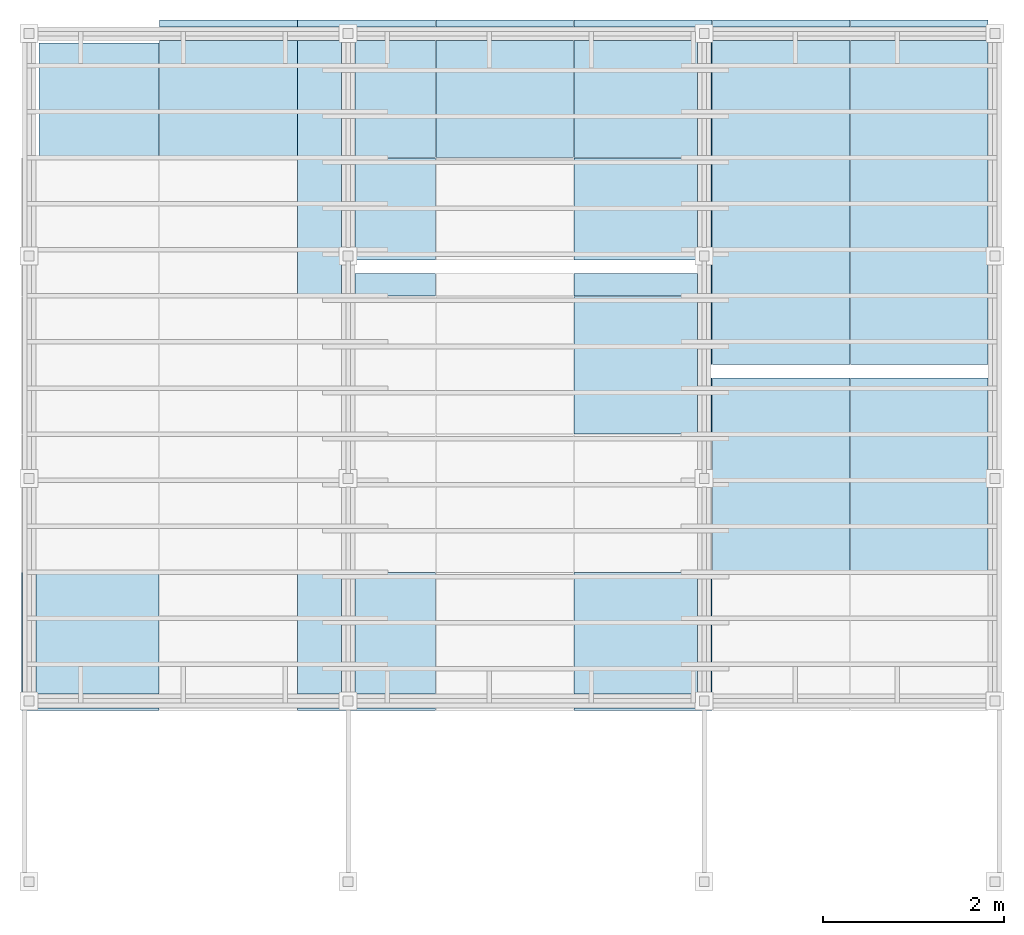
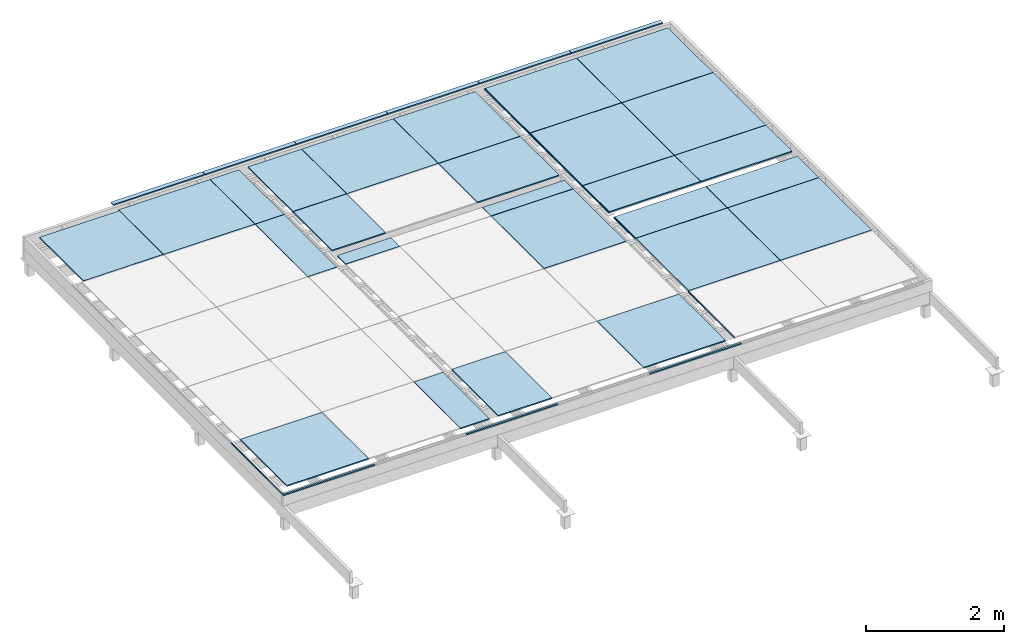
# One storey, part 5 of 5: 19 slabs.
"""IFC4 building model written with IfcOpenShell, lengths in millimetres."""

from ifc_helpers import new_model, si_unit, derived_unit, frame, origin_with_axes, place, context, subcontext, project, spatial, polygons, source, transform, mapped, material, constituent, constituent_set, element, save


model = new_model("IFC4")

# Units and contexts
model_context = context("Model", 3, precision=1e-06, world=origin_with_axes())
body_context = subcontext(model_context, "Body", "Model", "MODEL_VIEW")
ifc_project = project(units=[si_unit("LENGTHUNIT", "METRE", prefix="MILLI"), si_unit("AREAUNIT", "SQUARE_METRE"), si_unit("VOLUMEUNIT", "CUBIC_METRE"), si_unit("MASSUNIT", "GRAM", prefix="KILO"), si_unit("ELECTRICVOLTAGEUNIT", "VOLT", prefix="KILO"), si_unit("THERMODYNAMICTEMPERATUREUNIT", "DEGREE_CELSIUS"), si_unit("PRESSUREUNIT", "PASCAL", prefix="MEGA"), si_unit("PLANEANGLEUNIT", "RADIAN"), derived_unit("THERMALCONDUCTANCEUNIT", [(si_unit("POWERUNIT", "WATT"), 1), (si_unit("LENGTHUNIT", "METRE"), -1), (si_unit("THERMODYNAMICTEMPERATUREUNIT", "KELVIN"), -1)]), derived_unit("MASSDENSITYUNIT", [(si_unit("MASSUNIT", "GRAM", prefix="KILO"), 1), (si_unit("VOLUMEUNIT", "CUBIC_METRE"), -1)])], contexts=[model_context])

# Site, building, storey
site_placement = place(None, origin_with_axes())
site = spatial("IfcSite", under=ifc_project, at=site_placement, CompositionType="ELEMENT")
building_placement = place(site_placement, origin_with_axes())
building = spatial("IfcBuilding", under=site, at=building_placement, CompositionType="ELEMENT")
storey_placement = place(building_placement, origin_with_axes())
storey = spatial("IfcBuildingStorey", under=building, at=storey_placement, Name="Ниже 0.00", CompositionType="ELEMENT", Elevation=0.0)

# Slabs
ifc_material = material(Name="фанера)")
ifc_constituent = constituent(ifc_material, Name="Слой 1 - фанера): 21,00 мм")
ifc_constituent_set = constituent_set(constituents=[ifc_constituent], Name="Фанера")
shared_shape_1 = source(origin_with_axes(), body_context, "Body", "Tessellation", [
    polygons([(9170.000000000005, 1499.9999999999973, 0.0), (9170.000000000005, 3024.9999999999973, 0.0), (10695.000000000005, 3024.9999999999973, 0.0), (10695.000000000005, 1499.9999999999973, 0.0), (9170.000000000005, 1499.9999999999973, 21.0), (9170.000000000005, 3024.9999999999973, 21.0), (10695.000000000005, 3024.9999999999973, 21.0), (10695.000000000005, 1499.9999999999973, 21.0)], [[[1, 2, 3, 4]], [[2, 1, 5, 6]], [[3, 2, 6, 7]], [[4, 3, 7, 8]], [[1, 4, 8, 5]], [[5, 8, 7, 6]]], closed=True),
])
slab_1_placement = place(storey_placement, frame((9170.000000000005, 1499.9999999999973, 0.0), z_axis=(0.0, 0.0, 1.0), x_axis=(1.0, 0.0, 0.0)))
element("IfcSlab", 1, at=slab_1_placement, inside=storey, material=ifc_constituent_set, Name="Перекрытие: 21,00 мм", PredefinedType="FLOOR", context=body_context, shape_type="MappedRepresentation", body=[
    mapped(shared_shape_1, transform((-9170.000000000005, -1499.9999999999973, 0.0), x_axis=(1.0, 0.0, 0.0), y_axis=(0.0, 1.0, 0.0), z_axis=(0.0, 0.0, 1.0), scale=1.0)),
])
shared_shape_2 = source(origin_with_axes(), body_context, "Body", "Tessellation", [
    polygons([(10695.000000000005, 3800.0000000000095, 0.0), (9170.000000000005, 3800.000000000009, 0.0), (9170.000000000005, 4554.999999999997, 0.0), (10695.000000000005, 4554.999999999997, 0.0), (10695.000000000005, 3800.0000000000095, 21.0), (9170.000000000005, 3800.000000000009, 21.0), (9170.000000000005, 4554.999999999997, 21.0), (10695.000000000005, 4554.999999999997, 21.0)], [[[1, 2, 3, 4]], [[1, 5, 6, 2]], [[2, 6, 7, 3]], [[4, 3, 7, 8]], [[5, 1, 4, 8]], [[6, 5, 8, 7]]], closed=True),
    polygons([(9170.000000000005, 3650.000000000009, 0.0), (10695.000000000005, 3650.0000000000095, 0.0), (10695.000000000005, 3029.9999999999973, 0.0), (9170.000000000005, 3029.9999999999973, 0.0), (10695.000000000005, 3650.0000000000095, 21.0), (9170.000000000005, 3650.000000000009, 21.0), (10695.000000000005, 3029.9999999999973, 21.0), (9170.000000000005, 3029.9999999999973, 21.0)], [[[1, 2, 3, 4]], [[5, 2, 1, 6]], [[2, 5, 7, 3]], [[4, 3, 7, 8]], [[6, 1, 4, 8]], [[5, 6, 8, 7]]], closed=True),
])
slab_2_placement = place(storey_placement, frame((9170.000000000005, 3029.9999999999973, 0.0), z_axis=(0.0, 0.0, 1.0), x_axis=(1.0, 0.0, 0.0)))
element("IfcSlab", 2, at=slab_2_placement, inside=storey, material=ifc_constituent_set, Name="Перекрытие: 21,00 мм", PredefinedType="FLOOR", context=body_context, shape_type="MappedRepresentation", body=[
    mapped(shared_shape_2, transform((-9170.000000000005, -3029.9999999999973, 0.0), x_axis=(1.0, 0.0, 0.0), y_axis=(0.0, 1.0, 0.0), z_axis=(0.0, 0.0, 1.0), scale=1.0)),
])
shared_shape_3 = source(origin_with_axes(), body_context, "Body", "Tessellation", [
    polygons([(9170.000000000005, 4559.999999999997, 0.0), (9170.000000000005, 6084.999999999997, 0.0), (10695.000000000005, 6084.999999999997, 0.0), (10695.000000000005, 4559.999999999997, 0.0), (9170.000000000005, 4559.999999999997, 21.0), (9170.000000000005, 6084.999999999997, 21.0), (10695.000000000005, 6084.999999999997, 21.0), (10695.000000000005, 4559.999999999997, 21.0)], [[[1, 2, 3, 4]], [[2, 1, 5, 6]], [[3, 2, 6, 7]], [[4, 3, 7, 8]], [[1, 4, 8, 5]], [[5, 8, 7, 6]]], closed=True),
])
slab_3_placement = place(storey_placement, frame((9170.000000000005, 4559.999999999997, 0.0), z_axis=(0.0, 0.0, 1.0), x_axis=(1.0, 0.0, 0.0)))
element("IfcSlab", 3, at=slab_3_placement, inside=storey, material=ifc_constituent_set, Name="Перекрытие: 21,00 мм", PredefinedType="FLOOR", context=body_context, shape_type="MappedRepresentation", body=[
    mapped(shared_shape_3, transform((-9170.000000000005, -4559.999999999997, 0.0), x_axis=(1.0, 0.0, 0.0), y_axis=(0.0, 1.0, 0.0), z_axis=(0.0, 0.0, 1.0), scale=1.0)),
])
shared_shape_4 = source(origin_with_axes(), body_context, "Body", "Tessellation", [
    polygons([(9170.000000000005, 7389.999999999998, 0.0), (10695.000000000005, 7389.999999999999, 0.0), (10695.000000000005, 6089.999999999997, 0.0), (9170.000000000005, 6089.999999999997, 0.0), (10695.000000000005, 7389.999999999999, 21.0), (9170.000000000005, 7389.999999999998, 21.0), (10695.000000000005, 6089.999999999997, 21.0), (9170.000000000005, 6089.999999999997, 21.0)], [[[1, 2, 3, 4]], [[5, 2, 1, 6]], [[2, 5, 7, 3]], [[4, 3, 7, 8]], [[6, 1, 4, 8]], [[5, 6, 8, 7]]], closed=True),
    polygons([(10695.000000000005, 7539.999999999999, 0.0), (9170.000000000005, 7539.999999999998, 0.0), (9170.000000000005, 7614.999999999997, 0.0), (10695.000000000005, 7614.999999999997, 0.0), (10695.000000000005, 7539.999999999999, 21.0), (9170.000000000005, 7539.999999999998, 21.0), (9170.000000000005, 7614.999999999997, 21.0), (10695.000000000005, 7614.999999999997, 21.0)], [[[1, 2, 3, 4]], [[1, 5, 6, 2]], [[2, 6, 7, 3]], [[4, 3, 7, 8]], [[5, 1, 4, 8]], [[6, 5, 8, 7]]], closed=True),
])
slab_4_placement = place(storey_placement, frame((9170.000000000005, 6089.999999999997, 0.0), z_axis=(0.0, 0.0, 1.0), x_axis=(1.0, 0.0, 0.0)))
element("IfcSlab", 4, at=slab_4_placement, inside=storey, material=ifc_constituent_set, Name="Перекрытие: 21,00 мм", PredefinedType="FLOOR", context=body_context, shape_type="MappedRepresentation", body=[
    mapped(shared_shape_4, transform((-9170.000000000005, -6089.999999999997, 0.0), x_axis=(1.0, 0.0, 0.0), y_axis=(0.0, 1.0, 0.0), z_axis=(0.0, 0.0, 1.0), scale=1.0)),
])
shared_shape_5 = source(origin_with_axes(), body_context, "Body", "Tessellation", [
    polygons([(7640.0000000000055, 1499.9999999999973, 0.0), (7640.0000000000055, 3024.9999999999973, 0.0), (9165.000000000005, 3024.9999999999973, 0.0), (9165.000000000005, 1499.9999999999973, 0.0), (7640.0000000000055, 1499.9999999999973, 21.0), (7640.0000000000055, 3024.9999999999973, 21.0), (9165.000000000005, 3024.9999999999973, 21.0), (9165.000000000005, 1499.9999999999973, 21.0)], [[[1, 2, 3, 4]], [[2, 1, 5, 6]], [[3, 2, 6, 7]], [[4, 3, 7, 8]], [[1, 4, 8, 5]], [[5, 8, 7, 6]]], closed=True),
])
slab_5_placement = place(storey_placement, frame((7640.0000000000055, 1499.9999999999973, 0.0), z_axis=(0.0, 0.0, 1.0), x_axis=(1.0, 0.0, 0.0)))
element("IfcSlab", 5, at=slab_5_placement, inside=storey, material=ifc_constituent_set, Name="Перекрытие: 21,00 мм", PredefinedType="FLOOR", context=body_context, shape_type="MappedRepresentation", body=[
    mapped(shared_shape_5, transform((-7640.0000000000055, -1499.9999999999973, 0.0), x_axis=(1.0, 0.0, 0.0), y_axis=(0.0, 1.0, 0.0), z_axis=(0.0, 0.0, 1.0), scale=1.0)),
])
shared_shape_6 = source(origin_with_axes(), body_context, "Body", "Tessellation", [
    polygons([(9165.000000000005, 3800.000000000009, 0.0), (7640.0000000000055, 3800.000000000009, 0.0), (7640.0000000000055, 4554.999999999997, 0.0), (9165.000000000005, 4554.999999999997, 0.0), (9165.000000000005, 3800.000000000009, 21.0), (7640.0000000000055, 3800.000000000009, 21.0), (7640.0000000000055, 4554.999999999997, 21.0), (9165.000000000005, 4554.999999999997, 21.0)], [[[1, 2, 3, 4]], [[1, 5, 6, 2]], [[2, 6, 7, 3]], [[4, 3, 7, 8]], [[5, 1, 4, 8]], [[6, 5, 8, 7]]], closed=True),
    polygons([(7640.0000000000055, 3650.000000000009, 0.0), (9165.000000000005, 3650.000000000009, 0.0), (9165.000000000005, 3029.9999999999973, 0.0), (7640.0000000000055, 3029.9999999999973, 0.0), (9165.000000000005, 3650.000000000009, 21.0), (7640.0000000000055, 3650.000000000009, 21.0), (9165.000000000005, 3029.9999999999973, 21.0), (7640.0000000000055, 3029.9999999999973, 21.0)], [[[1, 2, 3, 4]], [[5, 2, 1, 6]], [[2, 5, 7, 3]], [[4, 3, 7, 8]], [[6, 1, 4, 8]], [[5, 6, 8, 7]]], closed=True),
])
slab_6_placement = place(storey_placement, frame((7640.0000000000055, 3029.9999999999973, 0.0), z_axis=(0.0, 0.0, 1.0), x_axis=(1.0, 0.0, 0.0)))
element("IfcSlab", 6, at=slab_6_placement, inside=storey, material=ifc_constituent_set, Name="Перекрытие: 21,00 мм", PredefinedType="FLOOR", context=body_context, shape_type="MappedRepresentation", body=[
    mapped(shared_shape_6, transform((-7640.0000000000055, -3029.9999999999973, 0.0), x_axis=(1.0, 0.0, 0.0), y_axis=(0.0, 1.0, 0.0), z_axis=(0.0, 0.0, 1.0), scale=1.0)),
])
shared_shape_7 = source(origin_with_axes(), body_context, "Body", "Tessellation", [
    polygons([(7640.0000000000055, 4559.999999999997, 0.0), (7640.0000000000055, 6084.999999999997, 0.0), (9165.000000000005, 6084.999999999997, 0.0), (9165.000000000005, 4559.999999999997, 0.0), (7640.0000000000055, 4559.999999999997, 21.0), (7640.0000000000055, 6084.999999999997, 21.0), (9165.000000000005, 6084.999999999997, 21.0), (9165.000000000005, 4559.999999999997, 21.0)], [[[1, 2, 3, 4]], [[2, 1, 5, 6]], [[3, 2, 6, 7]], [[4, 3, 7, 8]], [[1, 4, 8, 5]], [[5, 8, 7, 6]]], closed=True),
])
slab_7_placement = place(storey_placement, frame((7640.0000000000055, 4559.999999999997, 0.0), z_axis=(0.0, 0.0, 1.0), x_axis=(1.0, 0.0, 0.0)))
element("IfcSlab", 7, at=slab_7_placement, inside=storey, material=ifc_constituent_set, Name="Перекрытие: 21,00 мм", PredefinedType="FLOOR", context=body_context, shape_type="MappedRepresentation", body=[
    mapped(shared_shape_7, transform((-7640.0000000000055, -4559.999999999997, 0.0), x_axis=(1.0, 0.0, 0.0), y_axis=(0.0, 1.0, 0.0), z_axis=(0.0, 0.0, 1.0), scale=1.0)),
])
shared_shape_8 = source(origin_with_axes(), body_context, "Body", "Tessellation", [
    polygons([(7640.0000000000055, 7389.999999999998, 0.0), (9165.000000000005, 7389.999999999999, 0.0), (9165.000000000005, 6089.999999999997, 0.0), (7640.0000000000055, 6089.999999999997, 0.0), (9165.000000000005, 7389.999999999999, 21.0), (7640.0000000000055, 7389.999999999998, 21.0), (9165.000000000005, 6089.999999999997, 21.0), (7640.0000000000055, 6089.999999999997, 21.0)], [[[1, 2, 3, 4]], [[5, 2, 1, 6]], [[2, 5, 7, 3]], [[4, 3, 7, 8]], [[6, 1, 4, 8]], [[5, 6, 8, 7]]], closed=True),
    polygons([(9165.000000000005, 7539.999999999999, 0.0), (7640.0000000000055, 7539.999999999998, 0.0), (7640.0000000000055, 7614.999999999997, 0.0), (9165.000000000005, 7614.999999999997, 0.0), (9165.000000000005, 7539.999999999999, 21.0), (7640.0000000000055, 7539.999999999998, 21.0), (7640.0000000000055, 7614.999999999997, 21.0), (9165.000000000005, 7614.999999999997, 21.0)], [[[1, 2, 3, 4]], [[1, 5, 6, 2]], [[2, 6, 7, 3]], [[4, 3, 7, 8]], [[5, 1, 4, 8]], [[6, 5, 8, 7]]], closed=True),
])
slab_8_placement = place(storey_placement, frame((7640.0000000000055, 6089.999999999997, 0.0), z_axis=(0.0, 0.0, 1.0), x_axis=(1.0, 0.0, 0.0)))
element("IfcSlab", 8, at=slab_8_placement, inside=storey, material=ifc_constituent_set, Name="Перекрытие: 21,00 мм", PredefinedType="FLOOR", context=body_context, shape_type="MappedRepresentation", body=[
    mapped(shared_shape_8, transform((-7640.0000000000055, -6089.999999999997, 0.0), x_axis=(1.0, 0.0, 0.0), y_axis=(0.0, 1.0, 0.0), z_axis=(0.0, 0.0, 1.0), scale=1.0)),
])
shared_shape_9 = source(origin_with_axes(), body_context, "Body", "Tessellation", [
    polygons([(7475.0, 150.0000000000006, 0.0), (6110.0000000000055, 149.99999999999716, 0.0), (6110.0000000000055, 1494.9999999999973, 0.0), (7475.0, 1494.9999999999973, 0.0), (6110.0000000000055, 149.99999999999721, 21.0), (7475.0, 149.99999999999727, 21.0), (6110.0000000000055, 1494.9999999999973, 21.0), (7475.0, 1494.9999999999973, 21.0)], [[[1, 2, 3, 4]], [[5, 2, 1, 6]], [[2, 5, 7, 3]], [[8, 4, 3, 7]], [[4, 8, 6, 1]], [[5, 6, 8, 7]]], closed=True),
    polygons([(6110.0000000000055, -2.801e-12, 0.0), (7635.0000000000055, -2.725e-12, 0.0), (7635.0000000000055, -30.000000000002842, 0.0), (6110.0000000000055, -30.000000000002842, 0.0), (7635.0000000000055, -2.728e-12, 21.0), (6110.0000000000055, -2.791e-12, 21.0), (7635.0000000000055, -30.000000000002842, 21.0), (6110.0000000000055, -30.000000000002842, 21.0)], [[[1, 2, 3, 4]], [[5, 2, 1, 6]], [[2, 5, 7, 3]], [[4, 3, 7, 8]], [[6, 1, 4, 8]], [[5, 6, 8, 7]]], closed=True),
    polygons([(7635.0000000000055, 149.99999999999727, 0.0), (7625.0, 150.0000000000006, 0.0), (7625.0, 1494.9999999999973, 0.0), (7635.0000000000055, 1494.9999999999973, 0.0), (7635.0000000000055, 149.99999999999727, 21.0), (7625.0, 149.99999999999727, 21.0), (7625.0, 1494.9999999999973, 21.0), (7635.0000000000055, 1494.9999999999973, 21.0)], [[[1, 2, 3, 4]], [[1, 5, 6, 2]], [[7, 3, 2, 6]], [[3, 7, 8, 4]], [[5, 1, 4, 8]], [[6, 5, 8, 7]]], closed=True),
])
slab_9_placement = place(storey_placement, frame((6110.0000000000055, -30.000000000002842, 0.0), z_axis=(0.0, 0.0, 1.0), x_axis=(1.0, 0.0, 0.0)))
element("IfcSlab", 9, at=slab_9_placement, inside=storey, material=ifc_constituent_set, Name="Перекрытие: 21,00 мм", PredefinedType="FLOOR", context=body_context, shape_type="MappedRepresentation", body=[
    mapped(shared_shape_9, transform((-6110.0000000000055, 30.000000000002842, 0.0), x_axis=(1.0, 0.0, 0.0), y_axis=(0.0, 1.0, 0.0), z_axis=(0.0, 0.0, 1.0), scale=1.0)),
])
shared_shape_10 = source(origin_with_axes(), body_context, "Body", "Tessellation", [
    polygons([(7475.0, 4554.999999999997, 0.0), (7475.0, 3029.9999999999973, 0.0), (6110.0000000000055, 3029.9999999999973, 0.0), (6110.0000000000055, 4554.999999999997, 0.0), (7475.0, 3029.9999999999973, 21.0), (7475.0, 4554.999999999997, 21.0), (6110.0000000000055, 3029.9999999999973, 21.0), (6110.0000000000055, 4554.999999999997, 21.0)], [[[1, 2, 3, 4]], [[5, 2, 1, 6]], [[2, 5, 7, 3]], [[4, 3, 7, 8]], [[6, 1, 4, 8]], [[5, 6, 8, 7]]], closed=True),
    polygons([(7625.0, 3800.000000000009, 0.0), (7625.0, 4554.999999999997, 0.0), (7635.0000000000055, 4554.999999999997, 0.0), (7635.0000000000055, 3800.000000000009, 0.0), (7625.0, 4554.999999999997, 21.0), (7625.0, 3800.000000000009, 21.0), (7635.0000000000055, 4554.999999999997, 21.0), (7635.0000000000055, 3800.000000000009, 21.0)], [[[1, 2, 3, 4]], [[5, 2, 1, 6]], [[2, 5, 7, 3]], [[8, 4, 3, 7]], [[4, 8, 6, 1]], [[5, 6, 8, 7]]], closed=True),
    polygons([(7625.0, 3029.9999999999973, 0.0), (7625.0, 3650.000000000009, 0.0), (7635.0000000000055, 3650.000000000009, 0.0), (7635.0000000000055, 3029.9999999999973, 0.0), (7625.0, 3029.9999999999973, 21.0), (7625.0, 3650.000000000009, 21.0), (7635.0000000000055, 3650.000000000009, 21.0), (7635.0000000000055, 3029.9999999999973, 21.0)], [[[1, 2, 3, 4]], [[1, 5, 6, 2]], [[7, 3, 2, 6]], [[3, 7, 8, 4]], [[5, 1, 4, 8]], [[6, 5, 8, 7]]], closed=True),
])
slab_10_placement = place(storey_placement, frame((6110.0000000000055, 3029.9999999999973, 0.0), z_axis=(0.0, 0.0, 1.0), x_axis=(1.0, 0.0, 0.0)))
element("IfcSlab", 10, at=slab_10_placement, inside=storey, material=ifc_constituent_set, Name="Перекрытие: 21,00 мм", PredefinedType="FLOOR", context=body_context, shape_type="MappedRepresentation", body=[
    mapped(shared_shape_10, transform((-6110.0000000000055, -3029.9999999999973, 0.0), x_axis=(1.0, 0.0, 0.0), y_axis=(0.0, 1.0, 0.0), z_axis=(0.0, 0.0, 1.0), scale=1.0)),
])
shared_shape_11 = source(origin_with_axes(), body_context, "Body", "Tessellation", [
    polygons([(7475.0, 6084.999999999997, 0.0), (7475.0, 4959.999999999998, 0.0), (6110.0000000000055, 4959.999999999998, 0.0), (6110.0000000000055, 6084.999999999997, 0.0), (7475.0, 6084.999999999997, 21.0), (7475.0, 4959.999999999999, 21.0), (6110.0000000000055, 4960.0, 21.0), (6110.0000000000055, 6084.999999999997, 21.0)], [[[1, 2, 3, 4]], [[1, 5, 6, 2]], [[7, 3, 2, 6]], [[3, 7, 8, 4]], [[5, 1, 4, 8]], [[6, 5, 8, 7]]], closed=True),
    polygons([(7475.0, 4809.999999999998, 0.0), (7475.0, 4559.999999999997, 0.0), (6110.0000000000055, 4559.999999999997, 0.0), (6110.0000000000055, 4809.999999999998, 0.0), (7475.0, 4559.999999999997, 21.0), (7475.0, 4809.999999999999, 21.0), (6110.0000000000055, 4559.999999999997, 21.0), (6110.0000000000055, 4809.999999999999, 21.0)], [[[1, 2, 3, 4]], [[5, 2, 1, 6]], [[2, 5, 7, 3]], [[8, 4, 3, 7]], [[4, 8, 6, 1]], [[5, 6, 8, 7]]], closed=True),
    polygons([(7625.0, 4559.999999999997, 0.0), (7625.0, 6084.999999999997, 0.0), (7635.0000000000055, 6084.999999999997, 0.0), (7635.0000000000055, 4559.999999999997, 0.0), (7625.0, 4559.999999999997, 21.0), (7625.0, 6084.999999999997, 21.0), (7635.0000000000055, 6084.999999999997, 21.0), (7635.0000000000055, 4559.999999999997, 21.0)], [[[1, 2, 3, 4]], [[1, 5, 6, 2]], [[2, 6, 7, 3]], [[4, 3, 7, 8]], [[5, 1, 4, 8]], [[6, 5, 8, 7]]], closed=True),
])
slab_11_placement = place(storey_placement, frame((6110.0000000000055, 4559.999999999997, 0.0), z_axis=(0.0, 0.0, 1.0), x_axis=(1.0, 0.0, 0.0)))
element("IfcSlab", 11, at=slab_11_placement, inside=storey, material=ifc_constituent_set, Name="Перекрытие: 21,00 мм", PredefinedType="FLOOR", context=body_context, shape_type="MappedRepresentation", body=[
    mapped(shared_shape_11, transform((-6110.0000000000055, -4559.999999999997, 0.0), x_axis=(1.0, 0.0, 0.0), y_axis=(0.0, 1.0, 0.0), z_axis=(0.0, 0.0, 1.0), scale=1.0)),
])
shared_shape_12 = source(origin_with_axes(), body_context, "Body", "Tessellation", [
    polygons([(7475.0, 7389.999999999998, 0.0), (7475.0, 6089.999999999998, 0.0), (6110.0000000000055, 6089.999999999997, 0.0), (6110.0000000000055, 7389.999999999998, 0.0), (7475.0, 6089.999999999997, 21.0), (7475.0, 7389.999999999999, 20.999999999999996), (6110.0000000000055, 6089.999999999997, 21.0), (6110.0000000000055, 7389.999999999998, 21.0)], [[[1, 2, 3, 4]], [[5, 2, 1, 6]], [[2, 5, 7, 3]], [[8, 4, 3, 7]], [[4, 8, 6, 1]], [[5, 6, 8, 7]]], closed=True),
    polygons([(7635.0000000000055, 7539.999999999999, 0.0), (6110.0000000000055, 7539.999999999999, 0.0), (6110.0000000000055, 7614.999999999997, 0.0), (7635.0000000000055, 7614.999999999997, 0.0), (7635.0000000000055, 7539.999999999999, 21.0), (6110.0000000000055, 7539.999999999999, 21.0), (6110.0000000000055, 7614.999999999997, 21.0), (7635.0000000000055, 7614.999999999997, 21.0)], [[[1, 2, 3, 4]], [[1, 5, 6, 2]], [[2, 6, 7, 3]], [[4, 3, 7, 8]], [[5, 1, 4, 8]], [[6, 5, 8, 7]]], closed=True),
    polygons([(7625.0, 6089.999999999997, 0.0), (7625.0, 7389.999999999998, 0.0), (7635.0000000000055, 7389.999999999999, 0.0), (7635.0000000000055, 6089.999999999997, 0.0), (7625.0, 6089.999999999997, 21.0), (7624.999999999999, 7389.999999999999, 21.0), (7635.0000000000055, 7389.999999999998, 21.0), (7635.0000000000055, 6089.999999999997, 21.0)], [[[1, 2, 3, 4]], [[1, 5, 6, 2]], [[7, 3, 2, 6]], [[3, 7, 8, 4]], [[5, 1, 4, 8]], [[6, 5, 8, 7]]], closed=True),
])
slab_12_placement = place(storey_placement, frame((6110.0000000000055, 6089.999999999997, 0.0), z_axis=(0.0, 0.0, 1.0), x_axis=(1.0, 0.0, 0.0)))
element("IfcSlab", 12, at=slab_12_placement, inside=storey, material=ifc_constituent_set, Name="Перекрытие: 21,00 мм", PredefinedType="FLOOR", context=body_context, shape_type="MappedRepresentation", body=[
    mapped(shared_shape_12, transform((-6110.0000000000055, -6089.999999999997, 0.0), x_axis=(1.0, 0.0, 0.0), y_axis=(0.0, 1.0, 0.0), z_axis=(0.0, 0.0, 1.0), scale=1.0)),
])
shared_shape_13 = source(origin_with_axes(), body_context, "Body", "Tessellation", [
    polygons([(4580.0000000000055, 7389.999999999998, 0.0), (6105.0000000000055, 7389.999999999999, 0.0), (6105.0000000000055, 6089.999999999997, 0.0), (4580.0000000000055, 6089.999999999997, 0.0), (6105.0000000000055, 7389.999999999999, 21.0), (4580.0000000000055, 7389.999999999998, 21.0), (6105.0000000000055, 6089.999999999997, 21.0), (4580.0000000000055, 6089.999999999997, 21.0)], [[[1, 2, 3, 4]], [[5, 2, 1, 6]], [[2, 5, 7, 3]], [[4, 3, 7, 8]], [[6, 1, 4, 8]], [[5, 6, 8, 7]]], closed=True),
    polygons([(6105.0000000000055, 7539.999999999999, 0.0), (4580.0000000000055, 7539.999999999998, 0.0), (4580.0000000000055, 7614.999999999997, 0.0), (6105.0000000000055, 7614.999999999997, 0.0), (6105.0000000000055, 7539.999999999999, 21.0), (4580.0000000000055, 7539.999999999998, 21.0), (4580.0000000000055, 7614.999999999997, 21.0), (6105.0000000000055, 7614.999999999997, 21.0)], [[[1, 2, 3, 4]], [[1, 5, 6, 2]], [[2, 6, 7, 3]], [[4, 3, 7, 8]], [[5, 1, 4, 8]], [[6, 5, 8, 7]]], closed=True),
])
slab_13_placement = place(storey_placement, frame((4580.0000000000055, 6089.999999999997, 0.0), z_axis=(0.0, 0.0, 1.0), x_axis=(1.0, 0.0, 0.0)))
element("IfcSlab", 13, at=slab_13_placement, inside=storey, material=ifc_constituent_set, Name="Перекрытие: 21,00 мм", PredefinedType="FLOOR", context=body_context, shape_type="MappedRepresentation", body=[
    mapped(shared_shape_13, transform((-4580.0000000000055, -6089.999999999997, 0.0), x_axis=(1.0, 0.0, 0.0), y_axis=(0.0, 1.0, 0.0), z_axis=(0.0, 0.0, 1.0), scale=1.0)),
])
shared_shape_14 = source(origin_with_axes(), body_context, "Body", "Tessellation", [
    polygons([(3682.5, 150.0000000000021, 0.0), (3682.5, 1494.9999999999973, 0.0), (4575.0000000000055, 1494.9999999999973, 0.0), (4575.0000000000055, 149.9999999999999, 0.0), (3682.5, 1494.9999999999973, 21.0), (3682.5, 150.0, 21.0), (4575.0000000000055, 1494.9999999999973, 21.0), (4575.0000000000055, 150.0, 21.0)], [[[1, 2, 3, 4]], [[5, 2, 1, 6]], [[2, 5, 7, 3]], [[8, 4, 3, 7]], [[4, 8, 6, 1]], [[5, 6, 8, 7]]], closed=True),
    polygons([(3532.5, 1494.9999999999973, 0.0), (3532.5, 150.0000000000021, 0.0), (3050.0000000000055, 150.0000000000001, 0.0), (3050.0000000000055, 1494.9999999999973, 0.0), (3532.5, 1494.9999999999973, 21.0), (3532.5, 150.00000000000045, 21.0), (3050.0000000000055, 150.0, 21.0), (3050.0000000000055, 1494.9999999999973, 21.0)], [[[1, 2, 3, 4]], [[1, 5, 6, 2]], [[7, 3, 2, 6]], [[3, 7, 8, 4]], [[5, 1, 4, 8]], [[6, 5, 8, 7]]], closed=True),
    polygons([(3050.0000000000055, -8.2e-14, 0.0), (4575.0000000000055, -1.14e-13, 0.0), (4575.0000000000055, -30.000000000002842, 0.0), (3050.0000000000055, -30.000000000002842, 0.0), (4575.0000000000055, 7e-15, 21.0), (3050.0000000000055, -4.6e-14, 21.0), (4575.0000000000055, -30.000000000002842, 21.0), (3050.0000000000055, -30.000000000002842, 21.0)], [[[1, 2, 3, 4]], [[5, 2, 1, 6]], [[2, 5, 7, 3]], [[4, 3, 7, 8]], [[6, 1, 4, 8]], [[5, 6, 8, 7]]], closed=True),
])
slab_14_placement = place(storey_placement, frame((3050.0000000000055, -30.000000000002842, 0.0), z_axis=(0.0, 0.0, 1.0), x_axis=(1.0, 0.0, 0.0)))
element("IfcSlab", 14, at=slab_14_placement, inside=storey, material=ifc_constituent_set, Name="Перекрытие: 21,00 мм", PredefinedType="FLOOR", context=body_context, shape_type="MappedRepresentation", body=[
    mapped(shared_shape_14, transform((-3050.0000000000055, 30.000000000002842, 0.0), x_axis=(1.0, 0.0, 0.0), y_axis=(0.0, 1.0, 0.0), z_axis=(0.0, 0.0, 1.0), scale=1.0)),
])
shared_shape_15 = source(origin_with_axes(), body_context, "Body", "Tessellation", [
    polygons([(3682.5, 4959.999999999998, 0.0), (3682.5, 6084.999999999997, 0.0), (4575.0000000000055, 6084.999999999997, 0.0), (4575.0000000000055, 4959.999999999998, 0.0), (3682.5, 6084.999999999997, 21.0), (3682.5, 4959.999999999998, 21.0), (4575.0000000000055, 6084.999999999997, 21.0), (4575.0000000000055, 4959.999999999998, 21.0)], [[[1, 2, 3, 4]], [[5, 2, 1, 6]], [[2, 5, 7, 3]], [[8, 4, 3, 7]], [[4, 8, 6, 1]], [[5, 6, 8, 7]]], closed=True),
    polygons([(3532.5, 6084.999999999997, 0.0), (3532.5, 4559.999999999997, 0.0), (3050.0000000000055, 4559.999999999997, 0.0), (3050.0000000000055, 6084.999999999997, 0.0), (3532.5, 4559.999999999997, 21.0), (3532.5, 6084.999999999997, 21.0), (3050.0000000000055, 4559.999999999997, 21.0), (3050.0000000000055, 6084.999999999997, 21.0)], [[[1, 2, 3, 4]], [[5, 2, 1, 6]], [[2, 5, 7, 3]], [[4, 3, 7, 8]], [[6, 1, 4, 8]], [[5, 6, 8, 7]]], closed=True),
    polygons([(3682.5, 4559.999999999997, 0.0), (3682.5, 4809.999999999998, 0.0), (4575.0000000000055, 4809.999999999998, 0.0), (4575.0000000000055, 4559.999999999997, 0.0), (3682.5, 4559.999999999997, 21.0), (3682.5, 4809.999999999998, 21.0), (4575.0000000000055, 4809.999999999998, 21.0), (4575.0000000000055, 4559.999999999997, 21.0)], [[[1, 2, 3, 4]], [[1, 5, 6, 2]], [[7, 3, 2, 6]], [[3, 7, 8, 4]], [[5, 1, 4, 8]], [[6, 5, 8, 7]]], closed=True),
])
slab_15_placement = place(storey_placement, frame((3050.0000000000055, 4559.999999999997, 0.0), z_axis=(0.0, 0.0, 1.0), x_axis=(1.0, 0.0, 0.0)))
element("IfcSlab", 15, at=slab_15_placement, inside=storey, material=ifc_constituent_set, Name="Перекрытие: 21,00 мм", PredefinedType="FLOOR", context=body_context, shape_type="MappedRepresentation", body=[
    mapped(shared_shape_15, transform((-3050.0000000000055, -4559.999999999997, 0.0), x_axis=(1.0, 0.0, 0.0), y_axis=(0.0, 1.0, 0.0), z_axis=(0.0, 0.0, 1.0), scale=1.0)),
])
shared_shape_16 = source(origin_with_axes(), body_context, "Body", "Tessellation", [
    polygons([(3682.5, 6089.999999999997, 0.0), (3682.5, 7389.999999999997, 0.0), (4575.0000000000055, 7389.999999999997, 0.0), (4575.0000000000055, 6089.999999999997, 0.0), (3682.5, 6089.999999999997, 21.0), (3682.5, 7389.999999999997, 21.0), (4575.0000000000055, 7389.999999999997, 21.0), (4575.0000000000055, 6089.999999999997, 21.0)], [[[1, 2, 3, 4]], [[1, 5, 6, 2]], [[7, 3, 2, 6]], [[3, 7, 8, 4]], [[5, 1, 4, 8]], [[6, 5, 8, 7]]], closed=True),
    polygons([(3532.5, 7389.999999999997, 0.0), (3532.5, 6089.999999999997, 0.0), (3050.0000000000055, 6089.999999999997, 0.0), (3050.0000000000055, 7389.999999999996, 0.0), (3532.5, 6089.999999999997, 21.0), (3532.5, 7389.999999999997, 21.0), (3050.0000000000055, 6089.999999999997, 21.0), (3050.0000000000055, 7389.999999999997, 21.0)], [[[1, 2, 3, 4]], [[5, 2, 1, 6]], [[2, 5, 7, 3]], [[8, 4, 3, 7]], [[4, 8, 6, 1]], [[5, 6, 8, 7]]], closed=True),
    polygons([(4575.0000000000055, 7539.999999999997, 0.0), (3050.0000000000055, 7539.999999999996, 0.0), (3050.0000000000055, 7614.999999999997, 0.0), (4575.0000000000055, 7614.999999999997, 0.0), (4575.0000000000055, 7539.999999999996, 21.0), (3050.0000000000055, 7539.999999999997, 21.0), (3050.0000000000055, 7614.999999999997, 21.0), (4575.0000000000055, 7614.999999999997, 21.0)], [[[1, 2, 3, 4]], [[1, 5, 6, 2]], [[2, 6, 7, 3]], [[4, 3, 7, 8]], [[5, 1, 4, 8]], [[6, 5, 8, 7]]], closed=True),
])
slab_16_placement = place(storey_placement, frame((3050.0000000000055, 6089.999999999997, 0.0), z_axis=(0.0, 0.0, 1.0), x_axis=(1.0, 0.0, 0.0)))
element("IfcSlab", 16, at=slab_16_placement, inside=storey, material=ifc_constituent_set, Name="Перекрытие: 21,00 мм", PredefinedType="FLOOR", context=body_context, shape_type="MappedRepresentation", body=[
    mapped(shared_shape_16, transform((-3050.0000000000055, -6089.999999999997, 0.0), x_axis=(1.0, 0.0, 0.0), y_axis=(0.0, 1.0, 0.0), z_axis=(0.0, 0.0, 1.0), scale=1.0)),
])
shared_shape_17 = source(origin_with_axes(), body_context, "Body", "Tessellation", [
    polygons([(1520.0000000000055, 7389.999999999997, 0.0), (3045.0000000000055, 7389.999999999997, 0.0), (3045.0000000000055, 6089.999999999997, 0.0), (1520.0000000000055, 6089.999999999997, 0.0), (3045.0000000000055, 7389.999999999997, 21.0), (1520.0000000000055, 7389.999999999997, 21.0), (3045.0000000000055, 6089.999999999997, 21.0), (1520.0000000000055, 6089.999999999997, 21.0)], [[[1, 2, 3, 4]], [[5, 2, 1, 6]], [[2, 5, 7, 3]], [[4, 3, 7, 8]], [[6, 1, 4, 8]], [[5, 6, 8, 7]]], closed=True),
    polygons([(3045.0000000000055, 7539.999999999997, 0.0), (1520.0000000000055, 7539.999999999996, 0.0), (1520.0000000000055, 7614.999999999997, 0.0), (3045.0000000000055, 7614.999999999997, 0.0), (3045.0000000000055, 7539.999999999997, 21.0), (1520.0000000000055, 7539.999999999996, 21.0), (1520.0000000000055, 7614.999999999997, 21.0), (3045.0000000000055, 7614.999999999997, 21.0)], [[[1, 2, 3, 4]], [[1, 5, 6, 2]], [[2, 6, 7, 3]], [[4, 3, 7, 8]], [[5, 1, 4, 8]], [[6, 5, 8, 7]]], closed=True),
])
slab_17_placement = place(storey_placement, frame((1520.0000000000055, 6089.999999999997, 0.0), z_axis=(0.0, 0.0, 1.0), x_axis=(1.0, 0.0, 0.0)))
element("IfcSlab", 17, at=slab_17_placement, inside=storey, material=ifc_constituent_set, Name="Перекрытие: 21,00 мм", PredefinedType="FLOOR", context=body_context, shape_type="MappedRepresentation", body=[
    mapped(shared_shape_17, transform((-1520.0000000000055, -6089.999999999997, 0.0), x_axis=(1.0, 0.0, 0.0), y_axis=(0.0, 1.0, 0.0), z_axis=(0.0, 0.0, 1.0), scale=1.0)),
])
shared_shape_18 = source(origin_with_axes(), body_context, "Body", "Tessellation", [
    polygons([(0.0, 0.0, 0.0), (1515.0000000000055, 7e-15, 0.0), (1515.0000000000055, -30.000000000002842, 0.0), (-9.999999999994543, -30.000000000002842, 0.0), (-9.999999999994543, 1494.9999999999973, 0.0), (4.2e-14, 1494.9999999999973, 0.0), (1515.0000000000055, 4e-15, 21.0), (0.0, 0.0, 21.0), (1515.0000000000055, -30.000000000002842, 21.0), (-9.999999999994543, -30.000000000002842, 21.0), (-9.999999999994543, 1494.9999999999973, 21.0), (-3e-15, 1494.9999999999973, 21.0)], [[[1, 2, 3, 4, 5, 6]], [[7, 2, 1, 8]], [[2, 7, 9, 3]], [[4, 3, 9, 10]], [[5, 4, 10, 11]], [[12, 6, 5, 11]], [[6, 12, 8, 1]], [[7, 8, 12, 11, 10, 9]]], closed=True),
    polygons([(150.0, 150.0, -1e-15), (149.99999999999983, 1494.9999999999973, 0.0), (1515.0000000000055, 1494.9999999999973, 0.0), (1515.0000000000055, 150.0, 0.0), (149.99999999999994, 1494.9999999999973, 21.0), (150.0, 150.0, 21.0), (1515.0000000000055, 1494.9999999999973, 21.0), (1515.0000000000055, 150.0, 21.0)], [[[1, 2, 3, 4]], [[5, 2, 1, 6]], [[2, 5, 7, 3]], [[8, 4, 3, 7]], [[4, 8, 6, 1]], [[5, 6, 8, 7]]], closed=True),
])
slab_18_placement = place(storey_placement, frame((-9.999999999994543, -30.000000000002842, 0.0), z_axis=(0.0, 0.0, 1.0), x_axis=(1.0, 0.0, 0.0)))
element("IfcSlab", 18, at=slab_18_placement, inside=storey, material=ifc_constituent_set, Name="Перекрытие: 21,00 мм", PredefinedType="FLOOR", context=body_context, shape_type="MappedRepresentation", body=[
    mapped(shared_shape_18, transform((9.999999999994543, 30.000000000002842, 0.0), x_axis=(1.0, 0.0, 0.0), y_axis=(0.0, 1.0, 0.0), z_axis=(0.0, 0.0, 1.0), scale=1.0)),
])
shared_shape_19 = source(origin_with_axes(), body_context, "Body", "Tessellation", [
    polygons([(184.43853414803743, 6089.999999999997, 0.0), (184.43853414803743, 7360.824845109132, 0.0), (1515.0000000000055, 7360.824845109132, 0.0), (1515.0000000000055, 6089.999999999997, 0.0), (184.43853414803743, 6089.999999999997, 21.0), (184.43853414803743, 7360.824845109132, 21.0), (1515.0000000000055, 7360.824845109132, 21.0), (1515.0000000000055, 6089.999999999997, 21.0)], [[[1, 2, 3, 4]], [[2, 1, 5, 6]], [[3, 2, 6, 7]], [[4, 3, 7, 8]], [[1, 4, 8, 5]], [[5, 8, 7, 6]]], closed=True),
])
slab_19_placement = place(storey_placement, frame((184.43853414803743, 6089.999999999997, 0.0), z_axis=(0.0, 0.0, 1.0), x_axis=(1.0, 0.0, 0.0)))
element("IfcSlab", 19, at=slab_19_placement, inside=storey, material=ifc_constituent_set, Name="Перекрытие: 21,00 мм", PredefinedType="FLOOR", context=body_context, shape_type="MappedRepresentation", body=[
    mapped(shared_shape_19, transform((-184.43853414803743, -6089.999999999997, 0.0), x_axis=(1.0, 0.0, 0.0), y_axis=(0.0, 1.0, 0.0), z_axis=(0.0, 0.0, 1.0), scale=1.0)),
])

save(model, "model.ifc")
